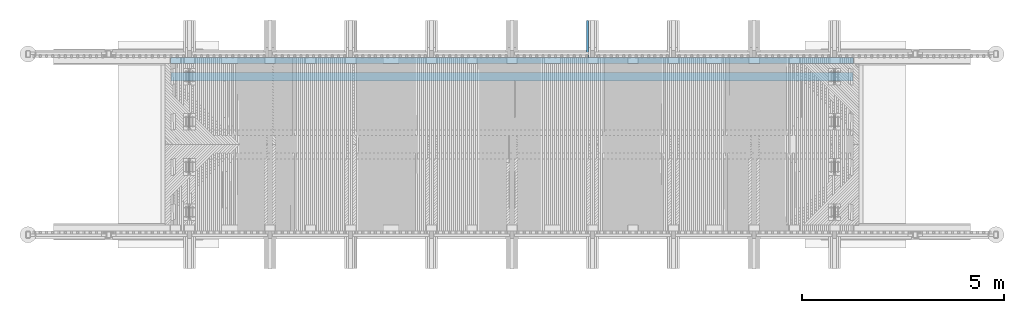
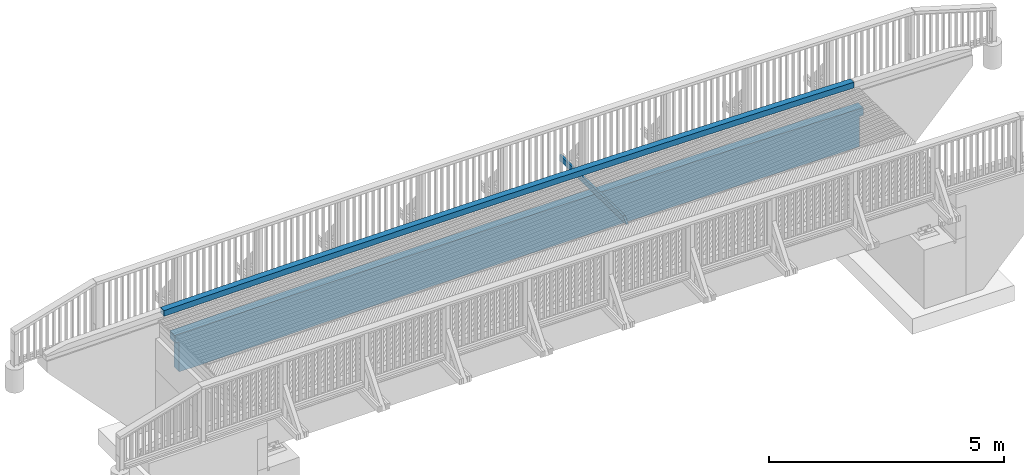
# One storey, part 38 of 53: 3 beams.
"""IFC2X3 building model written with IfcOpenShell, lengths in millimetres."""

import ifcopenshell
import ifcopenshell.guid

model = None  # the IFC model being written
_history = None  # IfcOwnerHistory: only IFC2X3 demands one
_inside = {}  # id of a spatial element -> (the spatial element, [elements in it])
_under = {}  # id of a project, library or spatial element -> (it, [spatial elements below it])
_declared = {}  # id of a project -> (the project, [libraries it declares])
_typed = {}  # id of a type object -> (the type object, [elements of that type])
_made_of = {}  # id of a material, layer set ... -> (it, [elements and type objects made of it])


def new_model(schema):
    """Start an empty IFC model of exactly this schema.

    Asked for "IFC4X3", IfcOpenShell would pick the latest addendum, in which some entities
    have other attributes; the version numbers below select the first issue.
    IFC2X3 requires an IfcOwnerHistory on every rooted entity: one is made here for all.
    """
    global model, _history
    if schema == "IFC4X3":
        model = ifcopenshell.file(schema_version=(4, 3, 0, 0))
    else:
        model = ifcopenshell.file(schema=schema)
    _inside.clear()
    _under.clear()
    _declared.clear()
    _typed.clear()
    _made_of.clear()
    _history = None
    if model.schema == "IFC2X3":
        org = make("IfcOrganization", Name="unknown")
        user = make(
            "IfcPersonAndOrganization",
            ThePerson=make("IfcPerson", FamilyName="unknown"),
            TheOrganization=org,
        )
        app = make(
            "IfcApplication",
            ApplicationDeveloper=org,
            Version="unknown",
            ApplicationFullName="unknown",
            ApplicationIdentifier="unknown",
        )
        _history = make(
            "IfcOwnerHistory",
            OwningUser=user,
            OwningApplication=app,
            ChangeAction="ADDED",
            CreationDate=0,
        )
    return model


def make(cls, **values):
    """One entity of the class cls with the attributes given. An attribute that is None is left unset."""
    return model.create_entity(
        cls, **{name: value for name, value in values.items() if value is not None}
    )


def rooted(cls, **values):
    """An entity with a GlobalId (a new one), such as an element, a storey or a relation."""
    return make(cls, GlobalId=ifcopenshell.guid.new(), OwnerHistory=_history, **values)


def si_unit(unit_type, name, prefix=None):
    """IfcSIUnit, for example si_unit("LENGTHUNIT", "METRE", prefix="MILLI")."""
    return make("IfcSIUnit", UnitType=unit_type, Prefix=prefix, Name=name)


def assignment(units):
    """IfcUnitAssignment: the units of a project."""
    return None if units is None else make("IfcUnitAssignment", Units=units)


def point(xyz):
    """IfcCartesianPoint."""
    return None if xyz is None else make("IfcCartesianPoint", Coordinates=xyz)


def direction(xyz):
    """IfcDirection."""
    return None if xyz is None else make("IfcDirection", DirectionRatios=xyz)


def frame(location, z_axis=None, x_axis=None):
    """IfcAxis2Placement3D, a coordinate frame: its origin and axes. An axis left out is left unset."""
    return make(
        "IfcAxis2Placement3D",
        Location=point(location),
        Axis=direction(z_axis),
        RefDirection=direction(x_axis),
    )


def origin_with_axes():
    """The frame at (0, 0, 0) with the z axis (0, 0, 1) and the x axis (1, 0, 0) written out."""
    return frame((0.0, 0.0, 0.0), z_axis=(0.0, 0.0, 1.0), x_axis=(1.0, 0.0, 0.0))


def place(relative_to, where):
    """IfcLocalPlacement: puts the frame where relative to a parent placement (None: the world)."""
    return make(
        "IfcLocalPlacement", PlacementRelTo=relative_to, RelativePlacement=where
    )


def context(
    kind, dimensions, precision=None, world=None, true_north=None, identifier=None
):
    """IfcGeometricRepresentationContext, for example the 3D "Model" context."""
    return make(
        "IfcGeometricRepresentationContext",
        ContextIdentifier=identifier,
        ContextType=kind,
        CoordinateSpaceDimension=dimensions,
        Precision=precision,
        WorldCoordinateSystem=world,
        TrueNorth=true_north,
    )


def subcontext(parent, identifier, kind, view, scale=None):
    """IfcGeometricRepresentationSubContext, for example "Body" below "Model"."""
    return make(
        "IfcGeometricRepresentationSubContext",
        ContextIdentifier=identifier,
        ContextType=kind,
        ParentContext=parent,
        TargetScale=scale,
        TargetView=view,
    )


def project(units=None, contexts=None):
    """IfcProject with its units and contexts."""
    return rooted(
        "IfcProject",
        Name="project",
        RepresentationContexts=contexts,
        UnitsInContext=assignment(units),
    )


def spatial(cls, under=None, at=None, **own):
    """A site, building, storey or space (cls), placed at a placement, below another one or the project."""
    s = rooted(cls, ObjectPlacement=at, **own)
    if under is not None:
        _under.setdefault(under.id(), (under, []))[1].append(s)
    return s


def faces_of(points, faces, orient=None, outer=None):
    """IfcFace entities. A face is a list of loops; a loop is a list of indices into points, from 0.

    orient and outer hold one flag for each loop. By default every Orientation is true, the
    first loop of a face is its IfcFaceOuterBound and the others are IfcFaceBound.
    """
    made = []
    for i, loops in enumerate(faces):
        bounds = []
        for j, loop in enumerate(loops):
            is_outer = j == 0 if outer is None else outer[i][j]
            bounds.append(
                make(
                    "IfcFaceOuterBound" if is_outer else "IfcFaceBound",
                    Bound=make("IfcPolyLoop", Polygon=[points[k] for k in loop]),
                    Orientation=True if orient is None else orient[i][j],
                )
            )
        made.append(make("IfcFace", Bounds=bounds))
    return made


def faceted_brep(points, faces, orient=None, outer=None, voids=None):
    """IfcFacetedBrep: a solid bounded by flat faces; with voids (closed shells), ...WithVoids."""
    shared = [point(p) for p in points]
    hull = make("IfcClosedShell", CfsFaces=faces_of(shared, faces, orient, outer))
    if voids is None:
        return make("IfcFacetedBrep", Outer=hull)
    return make(
        "IfcFacetedBrepWithVoids",
        Outer=hull,
        Voids=[
            make(cls, CfsFaces=faces_of(shared, fs, o, b)) for cls, fs, o, b in voids
        ],
    )


def shape(context_of_items, identifier, shape_type, items):
    """IfcShapeRepresentation: the items that make up one representation, for example the "Body"."""
    return make(
        "IfcShapeRepresentation",
        ContextOfItems=context_of_items,
        RepresentationIdentifier=identifier,
        RepresentationType=shape_type,
        Items=items,
    )


def material(Name=None, Category=None):
    """IfcMaterial."""
    return make("IfcMaterial", Name=Name, Category=Category)


def made_of(thing, what):
    """Note that an element or type object is made of a material, layer set ...; save() writes the relation."""
    if what is not None:
        _made_of.setdefault(what.id(), (what, []))[1].append(thing)
    return thing


def type_object(cls, material=None, **own):
    """A type object (cls), such as IfcWallType, which elements share."""
    return made_of(rooted(cls, **own), material)


def element(
    cls,
    number,
    at=None,
    inside=None,
    cuts=None,
    type_object=None,
    material=None,
    context=None,
    identifier="Body",
    shape_type=None,
    held_by="IfcProductDefinitionShape",
    body=None,
    shapes=None,
    **own,
):
    """One element of the class cls, such as IfcWall. Its Tag is "e" and its number.

    at: its placement. inside: the storey or other place that contains it. cuts: it is an
    opening in that element (IfcRelVoidsElement). A single representation is given by context,
    identifier, shape_type and body (its items); several are given by shapes. held_by: the class
    of the entity that holds the representations. save() writes the other relations.
    """
    e = rooted(cls, Tag="e%d" % number, ObjectPlacement=at, **own)
    if body is not None:
        shapes = [shape(context, identifier, shape_type, body)]
    if shapes is not None:
        e.Representation = make(held_by, Representations=shapes)
    if inside is not None:
        _inside.setdefault(inside.id(), (inside, []))[1].append(e)
    if cuts is not None:
        rooted(
            "IfcRelVoidsElement", RelatingBuildingElement=cuts, RelatedOpeningElement=e
        )
    if type_object is not None:
        _typed.setdefault(type_object.id(), (type_object, []))[1].append(e)
    return made_of(e, material)


def aggregate(whole, parts):
    """IfcRelAggregates: a whole, such as a stair, and the parts it consists of."""
    return rooted("IfcRelAggregates", RelatingObject=whole, RelatedObjects=parts)


def save(model, path):
    """Write the relations noted so far, then the file.

    IfcRelAggregates (storeys below a building ...), IfcRelContainedInSpatialStructure (elements
    in a storey), IfcRelDefinesByType, IfcRelAssociatesMaterial and IfcRelDeclares: one each for
    every whole, place, type object, material and project.
    """
    for whole, parts in _under.values():
        aggregate(whole, parts)
    for where, things in _inside.values():
        rooted(
            "IfcRelContainedInSpatialStructure",
            RelatedElements=things,
            RelatingStructure=where,
        )
    for kind, things in _typed.values():
        rooted("IfcRelDefinesByType", RelatedObjects=things, RelatingType=kind)
    for what, things in _made_of.values():
        rooted("IfcRelAssociatesMaterial", RelatedObjects=things, RelatingMaterial=what)
    for by, libraries in _declared.values():
        rooted("IfcRelDeclares", RelatingContext=by, RelatedDefinitions=libraries)
    model.write(path)


model = new_model("IFC2X3")

# Units and contexts
model_context = context("Model", 3, precision=1e-05, world=origin_with_axes())
body_context = subcontext(model_context, "Body", "Model", "MODEL_VIEW")
ifc_project = project(units=[si_unit("LENGTHUNIT", "METRE", prefix="MILLI"), si_unit("AREAUNIT", "SQUARE_METRE"), si_unit("VOLUMEUNIT", "CUBIC_METRE"), si_unit("MASSUNIT", "GRAM", prefix="KILO"), si_unit("TIMEUNIT", "SECOND"), si_unit("PLANEANGLEUNIT", "RADIAN"), si_unit("SOLIDANGLEUNIT", "STERADIAN"), si_unit("THERMODYNAMICTEMPERATUREUNIT", "DEGREE_CELSIUS"), si_unit("LUMINOUSINTENSITYUNIT", "LUMEN")], contexts=[model_context])

# Site, building, storey
site_placement = place(None, origin_with_axes())
site = spatial("IfcSite", under=ifc_project, at=site_placement, Name="Undefined", CompositionType="ELEMENT")
building_placement = place(site_placement, origin_with_axes())
building = spatial("IfcBuilding", under=site, at=building_placement, Name="Undefined", CompositionType="ELEMENT")
storey_placement = place(building_placement, origin_with_axes())
storey = spatial("IfcBuildingStorey", under=building, at=storey_placement, Name="Undefined", CompositionType="ELEMENT", Elevation=0.0)

# Beams
ifc_material = material(Name="TIMBER/Timber_Undefined")
beam_type_1 = type_object("IfcBeamType", Name="150*150", PredefinedType="NOTDEFINED")
beam_1_placement = place(storey_placement, frame((-101.638019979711, 44440.0049077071, 3288.62561019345), z_axis=(0.0, -1.0, 0.0), x_axis=(1.0, 0.0, 0.0)))
element("IfcBeam", 1, at=beam_1_placement, inside=storey, type_object=beam_type_1, material=ifc_material, Name="TÖRMÄYSJOHDE", ObjectType="150*150", context=body_context, shape_type="Brep", body=[
    faceted_brep([(-322.982711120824, -79.4552193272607, 75.0), (-325.088810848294, 70.5299944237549, 75.0), (-367.511180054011, 69.9228401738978, 75.0), (-368.361913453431, -80.1046921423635, 75.0), (-325.088810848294, 70.5299944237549, -75.0), (-367.511180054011, 69.9228401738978, -75.0), (-322.982711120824, -79.4552193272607, -75.0), (-368.361913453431, -80.1046921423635, -75.0), (1.01255045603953, -74.9931646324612, -75.0), (1.01255045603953, -74.9931646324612, 75.0), (-1.01255045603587, 74.9931646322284, 75.0), (-1.01255045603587, 74.9931646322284, -75.0), (323.066072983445, 79.2813189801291, -75.0), (325.010174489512, -70.7060820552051, -75.0), (325.010174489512, -70.7060820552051, 75.0), (323.066072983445, 79.2813189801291, 75.0), (647.146964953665, 83.3944562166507, 75.0), (647.146964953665, 83.3944562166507, -75.0), (649.010066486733, -66.5939728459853, -75.0), (649.010066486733, -66.5939728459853, 75.0), (973.012131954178, -62.6568382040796, 75.0), (971.230030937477, 87.3325751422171, 75.0), (971.230030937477, 87.3325751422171, -75.0), (973.012131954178, -62.6568382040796, -75.0), (1297.01627639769, -58.8946792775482, -75.0), (1297.01627639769, -58.8946792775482, 75.0), (1295.3151764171, 91.0956746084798, 75.0), (1295.3151764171, 91.0956746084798, -75.0), (1619.40230687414, 94.6837535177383, -75.0), (1621.0224053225, -55.307497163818, -75.0), (1621.0224053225, -55.307497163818, 75.0), (1619.40230687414, 94.6837535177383, 75.0), (1943.49132778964, 98.096810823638, 75.0), (1943.49132778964, 98.096810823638, -75.0), (1945.03042423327, -51.8952929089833, -75.0), (1945.03042423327, -51.8952929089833, 75.0), (2269.04023863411, -48.6580675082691, 75.0), (2267.58214464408, 101.334845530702, 75.0), (2267.58214464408, 101.334845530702, -75.0), (2269.04023863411, -48.6580675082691, -75.0), (2593.05175402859, -45.5958219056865, -75.0), (2593.05175402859, -45.5958219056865, 75.0), (2591.67466291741, 104.397856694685, 75.0), (2591.67466291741, 104.397856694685, -75.0), (2915.7687880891, 107.285843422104, -75.0), (2917.06487591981, -42.7085569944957, -75.0), (2917.06487591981, -42.7085569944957, 75.0), (2915.7687880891, 107.285843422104, 75.0), (3239.86442563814, 109.998804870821, 75.0), (3239.86442563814, 109.998804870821, -75.0), (3241.07950981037, -39.9962736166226, -75.0), (3241.07950981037, -39.9962736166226, 75.0), (3565.09556120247, -37.4589725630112, 75.0), (3563.96148104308, 112.536740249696, 75.0), (3563.96148104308, 112.536740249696, -75.0), (3565.09556120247, -37.4589725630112, -75.0), (3889.11293559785, -35.0966545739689, -75.0), (3889.11293559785, -35.0966545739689, 75.0), (3888.05985978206, 114.899648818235, 75.0), (3888.05985978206, 114.899648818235, -75.0), (4212.15946733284, 117.087529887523, -75.0), (4213.1315384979, -32.9093203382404, -75.0), (4213.1315384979, -32.9093203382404, 75.0), (4212.15946733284, 117.087529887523, 75.0), (4536.2602091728, 119.100382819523, 75.0), (4536.2602091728, 119.100382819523, -75.0), (4537.15127540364, -30.8969704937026, -75.0), (4537.15127540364, -30.8969704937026, 75.0), (4861.17205181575, -29.0596056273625, 75.0), (4860.36199077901, 120.938207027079, 75.0), (4860.36199077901, 120.938207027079, -75.0), (4861.17205181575, -29.0596056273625, -75.0), (5185.19377323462, -27.3972262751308, -75.0), (5185.19377323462, -27.3972262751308, 75.0), (5184.46471762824, 122.601001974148, 75.0), (5184.46471762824, 122.601001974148, -75.0), (5508.56829519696, 124.088767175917, -75.0), (5509.21634516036, -25.9098329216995, -75.0), (5509.21634516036, -25.9098329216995, 75.0), (5508.56829519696, 124.088767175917, 75.0), (5832.67262896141, 125.401502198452, 75.0), (5832.67262896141, 125.401502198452, -75.0), (5833.23967309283, -24.5974260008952, -75.0), (5833.23967309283, -24.5974260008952, 75.0), (6157.26366253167, -23.4600058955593, 75.0), (6156.77762439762, 126.539206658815, 75.0), (6156.77762439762, 126.539206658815, -75.0), (6157.26366253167, -23.4600058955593, -75.0), (6481.28821897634, -22.4975729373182, -75.0), (6481.28821897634, -22.4975729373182, 75.0), (6480.88318698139, 127.501880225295, 75.0), (6480.88318698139, 127.501880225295, -75.0), (6804.98922218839, 128.289522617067, -75.0), (6805.3132479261, -21.7101274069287, -75.0), (6805.3132479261, -21.7101274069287, 75.0), (6804.98922218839, 128.289522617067, 75.0), (7129.09563549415, 128.902133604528, 75.0), (7129.09563549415, 128.902133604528, -75.0), (7129.33865488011, -21.0976695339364, -75.0), (7129.33865488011, -21.0976695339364, 75.0), (7453.36434533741, -20.6601994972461, 75.0), (7453.20233237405, 129.339713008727, 75.0), (7453.20233237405, 129.339713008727, -75.0), (7453.36434533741, -20.6601994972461, -75.0), (7777.39022479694, -20.3977174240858, -75.0), (7777.39022479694, -20.3977174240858, 75.0), (7777.30921830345, 129.602260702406, 75.0), (7777.30921830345, 129.602260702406, -75.0), (8101.4161987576, 129.689776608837, -75.0), (8101.4161987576, -20.3102233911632, -75.0), (8101.4161987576, -20.3102233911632, 75.0), (8101.4161987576, 129.689776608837, 75.0), (8425.52317921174, 129.602260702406, 75.0), (8425.52317921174, 129.602260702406, -75.0), (8425.44217271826, -20.3977174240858, -75.0), (8425.44217271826, -20.3977174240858, 75.0), (8749.46805217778, -20.6601994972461, 75.0), (8749.63006514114, 129.339713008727, 75.0), (8749.63006514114, 129.339713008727, -75.0), (8749.46805217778, -20.6601994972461, -75.0), (9073.49374263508, -21.0976695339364, -75.0), (9073.49374263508, -21.0976695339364, 75.0), (9073.73676202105, 128.902133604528, 75.0), (9073.73676202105, 128.902133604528, -75.0), (9397.8431753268, 128.289522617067, -75.0), (9397.51914958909, -21.7101274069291, -75.0), (9397.51914958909, -21.7101274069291, 75.0), (9397.8431753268, 128.289522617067, 75.0), (9721.9492105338, 127.501880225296, 75.0), (9721.9492105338, 127.501880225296, -75.0), (9721.54417853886, -22.4975729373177, -75.0), (9721.54417853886, -22.4975729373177, 75.0), (10045.5687349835, -23.4600058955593, 75.0), (10046.0547731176, 126.539206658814, 75.0), (10046.0547731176, 126.539206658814, -75.0), (10045.5687349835, -23.4600058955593, -75.0), (10369.5927244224, -24.5974260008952, -75.0), (10369.5927244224, -24.5974260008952, 75.0), (10370.1597685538, 125.401502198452, 75.0), (10370.1597685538, 125.401502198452, -75.0), (10694.2641023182, 124.088767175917, -75.0), (10693.6160523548, -25.9098329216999, -75.0), (10693.6160523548, -25.9098329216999, 75.0), (10694.2641023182, 124.088767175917, 75.0), (11018.367679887, 122.601001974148, 75.0), (11018.367679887, 122.601001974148, -75.0), (11017.6386242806, -27.3972262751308, -75.0), (11017.6386242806, -27.3972262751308, 75.0), (11341.6603456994, -29.0596056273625, 75.0), (11342.4704067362, 120.938207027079, 75.0), (11342.4704067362, 120.938207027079, -75.0), (11341.6603456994, -29.0596056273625, -75.0), (11665.6811221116, -30.8969704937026, -75.0), (11665.6811221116, -30.8969704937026, 75.0), (11666.5721883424, 119.100382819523, 75.0), (11666.5721883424, 119.100382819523, -75.0), (11990.6729301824, 117.087529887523, -75.0), (11989.7008590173, -32.9093203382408, -75.0), (11989.7008590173, -32.9093203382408, 75.0), (11990.6729301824, 117.087529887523, 75.0), (12314.7725377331, 114.899648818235, 75.0), (12314.7725377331, 114.899648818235, -75.0), (12313.7194619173, -35.0966545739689, -75.0), (12313.7194619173, -35.0966545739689, 75.0), (12637.7368363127, -37.4589725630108, 75.0), (12638.8709164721, 112.536740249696, 75.0), (12638.8709164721, 112.536740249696, -75.0), (12637.7368363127, -37.4589725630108, -75.0), (12961.7528877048, -39.9962736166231, -75.0), (12961.7528877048, -39.9962736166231, 75.0), (12962.9679718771, 109.998804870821, 75.0), (12962.9679718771, 109.998804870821, -75.0), (13287.0636094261, 107.285843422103, -75.0), (13285.7675215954, -42.7085569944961, -75.0), (13285.7675215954, -42.7085569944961, 75.0), (13287.0636094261, 107.285843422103, 75.0), (13611.1577345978, 104.397856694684, 75.0), (13611.1577345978, 104.397856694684, -75.0), (13609.7806434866, -45.5958219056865, -75.0), (13609.7806434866, -45.5958219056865, 75.0), (13933.7921588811, -48.6580675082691, 75.0), (13935.2502528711, 101.334845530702, 75.0), (13935.2502528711, 101.334845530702, -75.0), (13933.7921588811, -48.6580675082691, -75.0), (14257.8019732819, -51.8952929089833, -75.0), (14257.8019732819, -51.8952929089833, 75.0), (14259.3410697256, 98.096810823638, 75.0), (14259.3410697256, 98.096810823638, -75.0), (14583.430090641, 94.6837535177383, -75.0), (14581.8099921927, -55.3074971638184, -75.0), (14581.8099921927, -55.3074971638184, 75.0), (14583.430090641, 94.6837535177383, 75.0), (14907.5172210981, 91.0956746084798, 75.0), (14907.5172210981, 91.0956746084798, -75.0), (14905.8161211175, -58.8946792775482, -75.0), (14905.8161211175, -58.8946792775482, 75.0), (15229.820265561, -62.6568382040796, 75.0), (15231.6023665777, 87.3325751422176, 75.0), (15231.6023665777, 87.3325751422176, -75.0), (15229.820265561, -62.6568382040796, -75.0), (15553.8223310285, -66.5939728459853, -75.0), (15553.8223310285, -66.5939728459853, 75.0), (15555.6854325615, 83.3944562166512, 75.0), (15555.6854325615, 83.3944562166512, -75.0), (15879.7663245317, 79.2813189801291, -75.0), (15877.8222230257, -70.7060820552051, -75.0), (15877.8222230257, -70.7060820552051, 75.0), (15879.7663245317, 79.2813189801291, 75.0), (16203.8449479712, 74.9931646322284, 75.0), (16203.8449479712, 74.9931646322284, -75.0), (16201.8198470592, -74.9931646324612, -75.0), (16201.8198470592, -74.9931646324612, 75.0), (16513.3537972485, -79.2803664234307, 75.0), (16515.4567816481, 70.7048910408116, 75.0), (16515.4567816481, 70.7048910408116, -75.0), (16513.3537972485, -79.2803664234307, -75.0), (16571.6382119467, -80.1127239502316, -75.0), (16571.6382119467, -80.1127239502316, 75.0), (16570.7872297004, 69.9147190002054, 75.0), (16570.7872297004, 69.9147190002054, -75.0)], [[[0, 1, 2, 3]], [[1, 4, 5, 2]], [[4, 6, 7, 5]], [[3, 2, 5, 7]], [[6, 0, 3, 7]], [[0, 6, 8, 9]], [[1, 0, 9, 10]], [[4, 1, 10, 11]], [[6, 4, 11, 8]], [[8, 11, 12, 13]], [[9, 8, 13, 14]], [[10, 9, 14, 15]], [[11, 10, 15, 12]], [[12, 15, 16, 17]], [[13, 12, 17, 18]], [[14, 13, 18, 19]], [[15, 14, 19, 16]], [[16, 19, 20, 21]], [[17, 16, 21, 22]], [[18, 17, 22, 23]], [[19, 18, 23, 20]], [[20, 23, 24, 25]], [[21, 20, 25, 26]], [[22, 21, 26, 27]], [[23, 22, 27, 24]], [[24, 27, 28, 29]], [[25, 24, 29, 30]], [[26, 25, 30, 31]], [[27, 26, 31, 28]], [[28, 31, 32, 33]], [[29, 28, 33, 34]], [[30, 29, 34, 35]], [[31, 30, 35, 32]], [[32, 35, 36, 37]], [[33, 32, 37, 38]], [[34, 33, 38, 39]], [[35, 34, 39, 36]], [[36, 39, 40, 41]], [[37, 36, 41, 42]], [[38, 37, 42, 43]], [[39, 38, 43, 40]], [[40, 43, 44, 45]], [[41, 40, 45, 46]], [[42, 41, 46, 47]], [[43, 42, 47, 44]], [[44, 47, 48, 49]], [[45, 44, 49, 50]], [[46, 45, 50, 51]], [[47, 46, 51, 48]], [[48, 51, 52, 53]], [[49, 48, 53, 54]], [[50, 49, 54, 55]], [[51, 50, 55, 52]], [[52, 55, 56, 57]], [[53, 52, 57, 58]], [[54, 53, 58, 59]], [[55, 54, 59, 56]], [[56, 59, 60, 61]], [[57, 56, 61, 62]], [[58, 57, 62, 63]], [[59, 58, 63, 60]], [[60, 63, 64, 65]], [[61, 60, 65, 66]], [[62, 61, 66, 67]], [[63, 62, 67, 64]], [[64, 67, 68, 69]], [[65, 64, 69, 70]], [[66, 65, 70, 71]], [[67, 66, 71, 68]], [[68, 71, 72, 73]], [[69, 68, 73, 74]], [[70, 69, 74, 75]], [[71, 70, 75, 72]], [[72, 75, 76, 77]], [[73, 72, 77, 78]], [[74, 73, 78, 79]], [[75, 74, 79, 76]], [[76, 79, 80, 81]], [[77, 76, 81, 82]], [[78, 77, 82, 83]], [[79, 78, 83, 80]], [[80, 83, 84, 85]], [[81, 80, 85, 86]], [[82, 81, 86, 87]], [[83, 82, 87, 84]], [[84, 87, 88, 89]], [[85, 84, 89, 90]], [[86, 85, 90, 91]], [[87, 86, 91, 88]], [[88, 91, 92, 93]], [[89, 88, 93, 94]], [[90, 89, 94, 95]], [[91, 90, 95, 92]], [[92, 95, 96, 97]], [[93, 92, 97, 98]], [[94, 93, 98, 99]], [[95, 94, 99, 96]], [[96, 99, 100, 101]], [[97, 96, 101, 102]], [[98, 97, 102, 103]], [[99, 98, 103, 100]], [[100, 103, 104, 105]], [[101, 100, 105, 106]], [[102, 101, 106, 107]], [[103, 102, 107, 104]], [[104, 107, 108, 109]], [[105, 104, 109, 110]], [[106, 105, 110, 111]], [[107, 106, 111, 108]], [[108, 111, 112, 113]], [[109, 108, 113, 114]], [[110, 109, 114, 115]], [[111, 110, 115, 112]], [[112, 115, 116, 117]], [[113, 112, 117, 118]], [[114, 113, 118, 119]], [[115, 114, 119, 116]], [[116, 119, 120, 121]], [[117, 116, 121, 122]], [[118, 117, 122, 123]], [[119, 118, 123, 120]], [[120, 123, 124, 125]], [[121, 120, 125, 126]], [[122, 121, 126, 127]], [[123, 122, 127, 124]], [[124, 127, 128, 129]], [[125, 124, 129, 130]], [[126, 125, 130, 131]], [[127, 126, 131, 128]], [[128, 131, 132, 133]], [[129, 128, 133, 134]], [[130, 129, 134, 135]], [[131, 130, 135, 132]], [[132, 135, 136, 137]], [[133, 132, 137, 138]], [[134, 133, 138, 139]], [[135, 134, 139, 136]], [[136, 139, 140, 141]], [[137, 136, 141, 142]], [[138, 137, 142, 143]], [[139, 138, 143, 140]], [[140, 143, 144, 145]], [[141, 140, 145, 146]], [[142, 141, 146, 147]], [[143, 142, 147, 144]], [[144, 147, 148, 149]], [[145, 144, 149, 150]], [[146, 145, 150, 151]], [[147, 146, 151, 148]], [[148, 151, 152, 153]], [[149, 148, 153, 154]], [[150, 149, 154, 155]], [[151, 150, 155, 152]], [[152, 155, 156, 157]], [[153, 152, 157, 158]], [[154, 153, 158, 159]], [[155, 154, 159, 156]], [[156, 159, 160, 161]], [[157, 156, 161, 162]], [[158, 157, 162, 163]], [[159, 158, 163, 160]], [[160, 163, 164, 165]], [[161, 160, 165, 166]], [[162, 161, 166, 167]], [[163, 162, 167, 164]], [[164, 167, 168, 169]], [[165, 164, 169, 170]], [[166, 165, 170, 171]], [[167, 166, 171, 168]], [[168, 171, 172, 173]], [[169, 168, 173, 174]], [[170, 169, 174, 175]], [[171, 170, 175, 172]], [[172, 175, 176, 177]], [[173, 172, 177, 178]], [[174, 173, 178, 179]], [[175, 174, 179, 176]], [[176, 179, 180, 181]], [[177, 176, 181, 182]], [[178, 177, 182, 183]], [[179, 178, 183, 180]], [[180, 183, 184, 185]], [[181, 180, 185, 186]], [[182, 181, 186, 187]], [[183, 182, 187, 184]], [[184, 187, 188, 189]], [[185, 184, 189, 190]], [[186, 185, 190, 191]], [[187, 186, 191, 188]], [[188, 191, 192, 193]], [[189, 188, 193, 194]], [[190, 189, 194, 195]], [[191, 190, 195, 192]], [[192, 195, 196, 197]], [[193, 192, 197, 198]], [[194, 193, 198, 199]], [[195, 194, 199, 196]], [[196, 199, 200, 201]], [[197, 196, 201, 202]], [[198, 197, 202, 203]], [[199, 198, 203, 200]], [[200, 203, 204, 205]], [[201, 200, 205, 206]], [[202, 201, 206, 207]], [[203, 202, 207, 204]], [[204, 207, 208, 209]], [[205, 204, 209, 210]], [[206, 205, 210, 211]], [[207, 206, 211, 208]], [[208, 211, 212, 213]], [[209, 208, 213, 214]], [[210, 209, 214, 215]], [[211, 210, 215, 212]], [[212, 215, 216, 217]], [[213, 212, 217, 218]], [[214, 213, 218, 219]], [[215, 214, 219, 216]], [[218, 217, 216, 219]]]),
])
beam_type_2 = type_object("IfcBeamType", Name="150*50", PredefinedType="NOTDEFINED")
beam_2_placement = place(storey_placement, frame((9874.96303865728, 45437.210683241, 3071.75387190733), z_axis=(0.00303381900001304, 0.0199960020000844, 0.999795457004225), x_axis=(6.19089999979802e-05, -0.999800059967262, 0.0199959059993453)))
element("IfcBeam", 2, at=beam_2_placement, inside=storey, type_object=beam_type_2, material=ifc_material, Name="BEAM", ObjectType="150*50", context=body_context, shape_type="Brep", body=[
    faceted_brep([(1.28420651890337e-08, -24.9999999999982, -74.9999999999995), (-1.28347892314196e-08, -24.9999999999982, 75.0), (-1.28347892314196e-08, 25.0, 75.0), (1.28420651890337e-08, 25.0000000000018, -75.0), (2713.86939704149, 24.9999999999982, 75.0000000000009), (2852.32649585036, 25.0, -74.9999999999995), (2852.32641872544, -25.0, -74.9999999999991), (2713.86931991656, -25.0, 75.0)], [[[0, 1, 2, 3]], [[3, 2, 4, 5]], [[0, 3, 5, 6]], [[1, 0, 6, 7]], [[2, 1, 7, 4]], [[6, 5, 4, 7]]]),
])
beam_type_3 = type_object("IfcBeamType", Name="990*215", PredefinedType="NOTDEFINED")
beam_3_placement = place(storey_placement, frame((243.613169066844, 44045.0, 2480.11879463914), z_axis=(0.0, 0.0, 1.0), x_axis=(1.0, 0.0, 0.0)))
element("IfcBeam", 3, at=beam_3_placement, inside=storey, type_object=beam_type_3, material=ifc_material, Name="PALKKI", ObjectType="990*215", context=body_context, shape_type="Brep", body=[
    faceted_brep([(16106.3868309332, 107.5, -494.790894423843), (16106.3868309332, -107.5, -494.790894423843), (16080.5342107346, -107.5, -494.790894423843), (15793.4597682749, -107.5, -494.790894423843), (15506.3868309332, -107.5, -494.958794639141), (15506.3868309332, 107.5, -494.958794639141), (15793.4597682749, 107.5, -494.790894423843), (16080.5342107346, 107.5, -494.790894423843), (16106.3868309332, 107.5, 285.209105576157), (16106.3868309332, -107.5, 285.209105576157), (16206.3868309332, 107.5, 285.209105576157), (16206.3868309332, -107.5, 285.209105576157), (16206.3868309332, 107.5, 485.682039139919), (16206.3868309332, -107.5, 485.682039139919), (-627.370013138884, 107.5, 486.625216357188), (-627.370013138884, -107.5, 486.625216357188), (-316.879497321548, -107.5, 490.87213125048), (-316.879497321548, 107.5, 490.87213125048), (-693.613169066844, -107.5, 485.684940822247), (-693.613169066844, -107.5, 285.209105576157), (-624.563039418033, -107.5, 285.209105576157), (-693.613169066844, 107.5, 485.684940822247), (-693.613169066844, 107.5, 285.209105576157), (-624.563039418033, 107.5, 285.209105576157), (-593.613169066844, 107.5, 285.209105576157), (-593.613169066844, -107.5, 285.209105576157), (-593.613169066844, 107.5, -494.790894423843), (-593.613169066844, -107.5, -494.790894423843), (-303.651924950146, -107.5, -494.790894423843), (-6.38683093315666, -107.5, 494.958794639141), (6.38683093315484, -107.5, -494.958794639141), (-6.38683093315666, 107.5, 494.958794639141), (6.38683093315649, 107.5, -494.790894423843), (304.107903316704, 107.5, 498.885205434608), (316.370645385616, 107.5, -491.038844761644), (-303.651924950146, 107.5, -494.790894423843), (316.370645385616, -107.5, -491.038844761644), (304.107903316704, -107.5, 498.885205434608), (614.604622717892, -107.5, 502.651362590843), (614.604622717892, 107.5, 502.651362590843), (626.356441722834, 107.5, -487.278884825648), (626.356441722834, -107.5, -487.278884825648), (936.344137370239, -107.5, -483.678915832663), (925.103244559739, -107.5, 506.257265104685), (925.103244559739, 107.5, 506.257265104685), (936.344137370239, 107.5, -483.678915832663), (1246.33364975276, 107.5, -480.238938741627), (1246.33364975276, -107.5, -480.238938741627), (1235.60368613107, -107.5, 509.702912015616), (1235.60368613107, 107.5, 509.702912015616), (1546.10586472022, 107.5, 512.988302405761), (1556.32489629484, 107.5, -476.958954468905), (1556.32489629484, -107.5, -476.958954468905), (1546.10586472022, -107.5, 512.988302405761), (1856.60969761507, -107.5, 516.113435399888), (1856.60969761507, 107.5, 516.113435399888), (1866.31779442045, 107.5, -473.838963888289), (1866.31779442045, -107.5, -473.838963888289), (2176.31226155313, -107.5, -470.878967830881), (2167.11510210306, -107.5, 519.078310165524), (2167.11510210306, 107.5, 519.078310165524), (2176.31226155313, 107.5, -470.878967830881), (2486.30821511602, 107.5, -468.078967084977), (2486.30821511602, -107.5, -468.078967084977), (2477.6219954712, -107.5, 521.882925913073), (2477.6219954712, 107.5, 521.882925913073), (2788.13029500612, 107.5, 524.527281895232), (2796.30557253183, 107.5, -465.438962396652), (2796.30557253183, -107.5, -465.438962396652), (2788.13029500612, -107.5, 524.527281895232), (3098.63991799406, -107.5, 527.011377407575), (3098.63991799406, 107.5, 527.011377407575), (3106.30425122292, 107.5, -462.958954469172), (3106.30425122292, -107.5, -462.958954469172), (3416.30416861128, -107.5, -460.638943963), (3409.15078172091, -107.5, 529.335211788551), (3409.15078172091, 107.5, 529.335211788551), (3416.30416861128, 107.5, -460.638943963), (3726.30524211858, 107.5, -458.478931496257), (3726.30524211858, -107.5, -458.478931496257), (3719.66280347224, -107.5, 531.49878441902), (3719.66280347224, 107.5, 531.49878441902), (4030.1759005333, 107.5, 533.502094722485), (4036.3073891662, 107.5, -456.478917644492), (4036.3073891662, -107.5, -456.478917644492), (4030.1759005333, -107.5, 533.502094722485), (4340.68999018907, -107.5, 535.345142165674), (4340.68999018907, 107.5, 535.345142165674), (4346.3105271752, 107.5, -454.638902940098), (4346.3105271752, -107.5, -454.638902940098), (4656.31457356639, -107.5, -452.958887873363), (4651.20498972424, -107.5, 537.027926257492), (4651.20498972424, 107.5, 537.027926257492), (4656.31457356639, 107.5, -452.958887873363), (4966.31944576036, 107.5, -451.438872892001), (4966.31944576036, -107.5, -451.438872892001), (4961.72081642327, -107.5, 538.550446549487), (4961.72081642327, 107.5, 538.550446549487), (5272.23738757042, 107.5, 539.912702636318), (5276.32506117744, 107.5, -450.078858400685), (5276.32506117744, -107.5, -450.078858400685), (5272.23738757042, -107.5, 539.912702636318), (5582.75462044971, -107.5, 541.114694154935), (5582.75462044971, 107.5, 541.114694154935), (5586.33133723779, 107.5, -448.878844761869), (5586.33133723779, -107.5, -448.878844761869), (5896.33819136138, -107.5, -447.838832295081), (5893.27243234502, -107.5, 542.156420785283), (5893.27243234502, 107.5, 542.156420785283), (5896.33819136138, 107.5, -447.838832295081), (6206.34554096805, 107.5, -446.958821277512), (6206.34554096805, -107.5, -446.958821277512), (6203.79074054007, -107.5, 543.037882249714), (6203.79074054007, 107.5, 543.037882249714), (6514.30946231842, 107.5, 543.759078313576), (6516.35330347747, 107.5, -446.238811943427), (6516.35330347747, -107.5, -446.238811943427), (6514.30946231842, -107.5, 543.759078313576), (6824.82851496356, -107.5, 544.320008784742), (6824.82851496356, 107.5, 544.320008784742), (6826.36139630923, 107.5, -445.678804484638), (6826.36139630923, -107.5, -445.678804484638), (7136.36973688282, -107.5, -445.278799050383), (7135.34781575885, -107.5, 544.720673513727), (7135.34781575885, 107.5, 544.720673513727), (7136.36973688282, 107.5, -445.278799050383), (7446.37824261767, 107.5, -445.038795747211), (7446.37824261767, -107.5, -445.038795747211), (7445.86728198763, -107.5, 544.961072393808), (7445.86728198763, 107.5, 544.961072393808), (7756.38683093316, 107.5, 545.041205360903), (7756.38683093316, 107.5, -444.958794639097), (7756.38683093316, -107.5, -444.958794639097), (7756.38683093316, -107.5, 545.041205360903), (8066.90637987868, -107.5, 544.961072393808), (8066.90637987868, 107.5, 544.961072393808), (8066.39541924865, 107.5, -445.038795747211), (8066.39541924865, -107.5, -445.038795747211), (8376.40392498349, -107.5, -445.278799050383), (8377.42584610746, -107.5, 544.720673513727), (8377.42584610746, 107.5, 544.720673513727), (8376.40392498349, 107.5, -445.278799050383), (8686.41226555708, 107.5, -445.678804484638), (8686.41226555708, -107.5, -445.678804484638), (8687.94514690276, -107.5, 544.320008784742), (8687.94514690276, 107.5, 544.320008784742), (8998.46419954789, 107.5, 543.759078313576), (8996.42035838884, 107.5, -446.238811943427), (8996.42035838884, -107.5, -446.238811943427), (8998.46419954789, -107.5, 543.759078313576), (9308.98292132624, -107.5, 543.037882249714), (9308.98292132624, 107.5, 543.037882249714), (9306.42812089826, 107.5, -446.958821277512), (9306.42812089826, -107.5, -446.958821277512), (9616.43547050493, -107.5, -447.838832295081), (9619.50122952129, -107.5, 542.156420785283), (9619.50122952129, 107.5, 542.156420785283), (9616.43547050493, 107.5, -447.838832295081), (9926.44232462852, 107.5, -448.878844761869), (9926.44232462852, -107.5, -448.878844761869), (9930.0190414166, -107.5, 541.114694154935), (9930.0190414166, 107.5, 541.114694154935), (10240.5362742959, 107.5, 539.912702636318), (10236.4486006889, 107.5, -450.078858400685), (10236.4486006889, -107.5, -450.078858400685), (10240.5362742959, -107.5, 539.912702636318), (10551.052845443, -107.5, 538.550446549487), (10551.052845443, 107.5, 538.550446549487), (10546.454216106, 107.5, -451.438872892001), (10546.454216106, -107.5, -451.438872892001), (10856.4590882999, -107.5, -452.958887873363), (10861.5686721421, -107.5, 537.027926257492), (10861.5686721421, 107.5, 537.027926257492), (10856.4590882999, 107.5, -452.958887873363), (11166.4631346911, 107.5, -454.638902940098), (11166.4631346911, -107.5, -454.638902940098), (11172.0836716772, -107.5, 535.345142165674), (11172.0836716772, 107.5, 535.345142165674), (11482.597761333, 107.5, 533.502094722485), (11476.4662727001, 107.5, -456.478917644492), (11476.4662727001, -107.5, -456.478917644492), (11482.597761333, -107.5, 533.502094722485), (11793.1108583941, -107.5, 531.49878441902), (11793.1108583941, 107.5, 531.49878441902), (11786.4684197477, 107.5, -458.478931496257), (11786.4684197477, -107.5, -458.478931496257), (12096.469493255, -107.5, -460.638943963), (12103.6228801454, -107.5, 529.335211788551), (12103.6228801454, 107.5, 529.335211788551), (12096.469493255, 107.5, -460.638943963), (12406.4694106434, 107.5, -462.958954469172), (12406.4694106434, -107.5, -462.958954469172), (12414.1337438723, -107.5, 527.011377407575), (12414.1337438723, 107.5, 527.011377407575), (12724.6433668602, 107.5, 524.527281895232), (12716.4680893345, 107.5, -465.438962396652), (12716.4680893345, -107.5, -465.438962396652), (12724.6433668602, -107.5, 524.527281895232), (13035.1516663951, -107.5, 521.882925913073), (13035.1516663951, 107.5, 521.882925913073), (13026.4654467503, 107.5, -468.078967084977), (13026.4654467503, -107.5, -468.078967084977), (13336.4614003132, -107.5, -470.878967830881), (13345.6585597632, -107.5, 519.078310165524), (13345.6585597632, 107.5, 519.078310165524), (13336.4614003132, 107.5, -470.878967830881), (13646.4558674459, 107.5, -473.838963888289), (13646.4558674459, -107.5, -473.838963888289), (13656.1639642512, -107.5, 516.113435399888), (13656.1639642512, 107.5, 516.113435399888), (13966.6677971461, 107.5, 512.988302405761), (13956.4487655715, 107.5, -476.958954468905), (13956.4487655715, -107.5, -476.958954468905), (13966.6677971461, -107.5, 512.988302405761), (14277.1699757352, -107.5, 509.702912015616), (14277.1699757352, 107.5, 509.702912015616), (14266.4400121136, 107.5, -480.238938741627), (14266.4400121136, -107.5, -480.238938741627), (14576.4295244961, -107.5, -483.678915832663), (14587.6704173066, -107.5, 506.257265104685), (14587.6704173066, 107.5, 506.257265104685), (14576.4295244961, 107.5, -483.678915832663), (14886.4172201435, 107.5, -487.278884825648), (14886.4172201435, -107.5, -487.278884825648), (14898.1690391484, -107.5, 502.651362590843), (14898.1690391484, 107.5, 502.651362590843), (15208.6657585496, 107.5, 498.885205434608), (15196.4030164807, 107.5, -491.038844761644), (15196.4030164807, -107.5, -491.038844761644), (15208.6657585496, -107.5, 498.885205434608), (15519.1604927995, -107.5, 494.958794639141), (15519.1604927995, 107.5, 494.958794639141), (15806.6537751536, -107.5, 491.180342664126), (15806.6537751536, 107.5, 491.180342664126), (16094.1452189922, -107.5, 487.264500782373), (16094.1452189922, 107.5, 487.264500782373)], [[[0, 1, 2, 3, 4, 5, 6, 7]], [[8, 9, 1, 0]], [[10, 11, 9, 8]], [[12, 13, 11, 10]], [[14, 15, 16, 17]], [[15, 18, 19, 20]], [[21, 22, 19, 18]], [[15, 14, 21, 18]], [[21, 14, 23, 22]], [[24, 25, 20, 19, 22, 23]], [[26, 27, 25, 24]], [[16, 15, 20, 25, 27, 28]], [[29, 16, 28, 30]], [[17, 16, 29, 31]], [[32, 31, 33, 34]], [[17, 31, 32, 35]], [[24, 23, 14, 17, 35, 26]], [[32, 30, 28, 27, 26, 35]], [[34, 36, 30, 32]], [[29, 30, 36, 37]], [[31, 29, 37, 33]], [[33, 37, 38, 39]], [[34, 33, 39, 40]], [[36, 34, 40, 41]], [[37, 36, 41, 38]], [[38, 41, 42, 43]], [[39, 38, 43, 44]], [[40, 39, 44, 45]], [[41, 40, 45, 42]], [[42, 45, 46, 47]], [[43, 42, 47, 48]], [[44, 43, 48, 49]], [[45, 44, 49, 46]], [[46, 49, 50, 51]], [[47, 46, 51, 52]], [[48, 47, 52, 53]], [[49, 48, 53, 50]], [[50, 53, 54, 55]], [[51, 50, 55, 56]], [[52, 51, 56, 57]], [[53, 52, 57, 54]], [[54, 57, 58, 59]], [[55, 54, 59, 60]], [[56, 55, 60, 61]], [[57, 56, 61, 58]], [[58, 61, 62, 63]], [[59, 58, 63, 64]], [[60, 59, 64, 65]], [[61, 60, 65, 62]], [[62, 65, 66, 67]], [[63, 62, 67, 68]], [[64, 63, 68, 69]], [[65, 64, 69, 66]], [[66, 69, 70, 71]], [[67, 66, 71, 72]], [[68, 67, 72, 73]], [[69, 68, 73, 70]], [[70, 73, 74, 75]], [[71, 70, 75, 76]], [[72, 71, 76, 77]], [[73, 72, 77, 74]], [[74, 77, 78, 79]], [[75, 74, 79, 80]], [[76, 75, 80, 81]], [[77, 76, 81, 78]], [[78, 81, 82, 83]], [[79, 78, 83, 84]], [[80, 79, 84, 85]], [[81, 80, 85, 82]], [[82, 85, 86, 87]], [[83, 82, 87, 88]], [[84, 83, 88, 89]], [[85, 84, 89, 86]], [[86, 89, 90, 91]], [[87, 86, 91, 92]], [[88, 87, 92, 93]], [[89, 88, 93, 90]], [[90, 93, 94, 95]], [[91, 90, 95, 96]], [[92, 91, 96, 97]], [[93, 92, 97, 94]], [[94, 97, 98, 99]], [[95, 94, 99, 100]], [[96, 95, 100, 101]], [[97, 96, 101, 98]], [[98, 101, 102, 103]], [[99, 98, 103, 104]], [[100, 99, 104, 105]], [[101, 100, 105, 102]], [[102, 105, 106, 107]], [[103, 102, 107, 108]], [[104, 103, 108, 109]], [[105, 104, 109, 106]], [[106, 109, 110, 111]], [[107, 106, 111, 112]], [[108, 107, 112, 113]], [[109, 108, 113, 110]], [[110, 113, 114, 115]], [[111, 110, 115, 116]], [[112, 111, 116, 117]], [[113, 112, 117, 114]], [[114, 117, 118, 119]], [[115, 114, 119, 120]], [[116, 115, 120, 121]], [[117, 116, 121, 118]], [[118, 121, 122, 123]], [[119, 118, 123, 124]], [[120, 119, 124, 125]], [[121, 120, 125, 122]], [[122, 125, 126, 127]], [[123, 122, 127, 128]], [[124, 123, 128, 129]], [[125, 124, 129, 126]], [[126, 129, 130, 131]], [[127, 126, 131, 132]], [[128, 127, 132, 133]], [[129, 128, 133, 130]], [[130, 133, 134, 135]], [[131, 130, 135, 136]], [[132, 131, 136, 137]], [[133, 132, 137, 134]], [[134, 137, 138, 139]], [[135, 134, 139, 140]], [[136, 135, 140, 141]], [[137, 136, 141, 138]], [[138, 141, 142, 143]], [[139, 138, 143, 144]], [[140, 139, 144, 145]], [[141, 140, 145, 142]], [[142, 145, 146, 147]], [[143, 142, 147, 148]], [[144, 143, 148, 149]], [[145, 144, 149, 146]], [[146, 149, 150, 151]], [[147, 146, 151, 152]], [[148, 147, 152, 153]], [[149, 148, 153, 150]], [[150, 153, 154, 155]], [[151, 150, 155, 156]], [[152, 151, 156, 157]], [[153, 152, 157, 154]], [[154, 157, 158, 159]], [[155, 154, 159, 160]], [[156, 155, 160, 161]], [[157, 156, 161, 158]], [[158, 161, 162, 163]], [[159, 158, 163, 164]], [[160, 159, 164, 165]], [[161, 160, 165, 162]], [[162, 165, 166, 167]], [[163, 162, 167, 168]], [[164, 163, 168, 169]], [[165, 164, 169, 166]], [[166, 169, 170, 171]], [[167, 166, 171, 172]], [[168, 167, 172, 173]], [[169, 168, 173, 170]], [[170, 173, 174, 175]], [[171, 170, 175, 176]], [[172, 171, 176, 177]], [[173, 172, 177, 174]], [[174, 177, 178, 179]], [[175, 174, 179, 180]], [[176, 175, 180, 181]], [[177, 176, 181, 178]], [[178, 181, 182, 183]], [[179, 178, 183, 184]], [[180, 179, 184, 185]], [[181, 180, 185, 182]], [[182, 185, 186, 187]], [[183, 182, 187, 188]], [[184, 183, 188, 189]], [[185, 184, 189, 186]], [[186, 189, 190, 191]], [[187, 186, 191, 192]], [[188, 187, 192, 193]], [[189, 188, 193, 190]], [[190, 193, 194, 195]], [[191, 190, 195, 196]], [[192, 191, 196, 197]], [[193, 192, 197, 194]], [[194, 197, 198, 199]], [[195, 194, 199, 200]], [[196, 195, 200, 201]], [[197, 196, 201, 198]], [[198, 201, 202, 203]], [[199, 198, 203, 204]], [[200, 199, 204, 205]], [[201, 200, 205, 202]], [[202, 205, 206, 207]], [[203, 202, 207, 208]], [[204, 203, 208, 209]], [[205, 204, 209, 206]], [[206, 209, 210, 211]], [[207, 206, 211, 212]], [[208, 207, 212, 213]], [[209, 208, 213, 210]], [[210, 213, 214, 215]], [[211, 210, 215, 216]], [[212, 211, 216, 217]], [[213, 212, 217, 214]], [[214, 217, 218, 219]], [[215, 214, 219, 220]], [[216, 215, 220, 221]], [[217, 216, 221, 218]], [[218, 221, 222, 223]], [[219, 218, 223, 224]], [[220, 219, 224, 225]], [[221, 220, 225, 222]], [[222, 225, 226, 227]], [[223, 222, 227, 228]], [[224, 223, 228, 229]], [[225, 224, 229, 226]], [[226, 229, 230, 231]], [[231, 230, 232, 233]], [[233, 232, 234, 235]], [[8, 0, 7, 235, 12, 10]], [[233, 235, 7, 6]], [[231, 233, 6, 5]], [[227, 226, 231, 5]], [[228, 227, 5, 4]], [[229, 228, 4, 230]], [[232, 230, 4, 3]], [[234, 232, 3, 2]], [[234, 2, 1, 9, 11, 13]], [[235, 234, 13, 12]]]),
])

save(model, "model.ifc")
